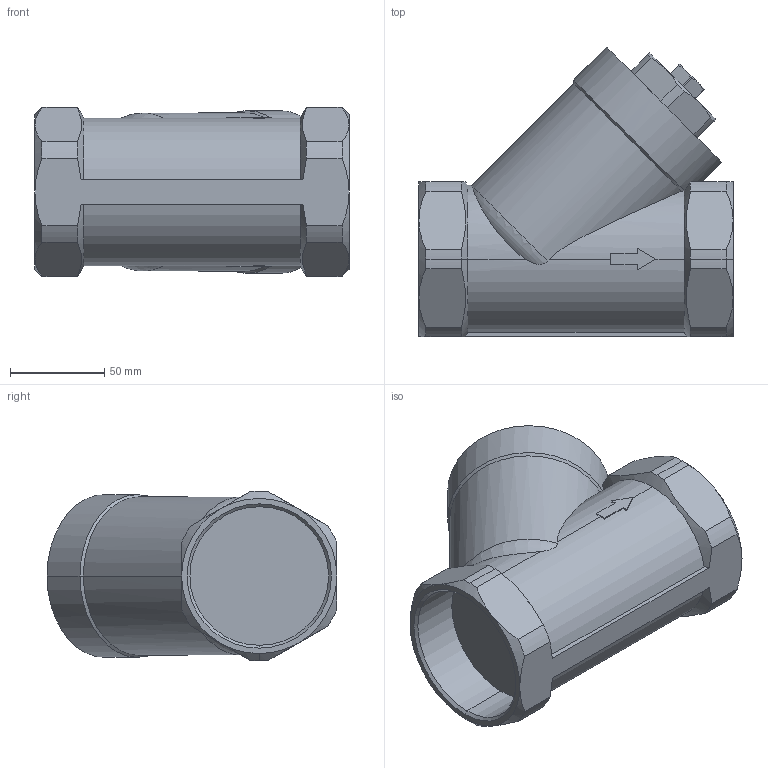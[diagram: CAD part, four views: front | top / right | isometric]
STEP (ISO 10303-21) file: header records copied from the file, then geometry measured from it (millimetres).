
FILE_DESCRIPTION (( 'STEP AP203' ), '1' );
FILE_NAME ('10.000.065.0.STEP', '2018-12-07T13:31:54', ( 'dell2' ), ( 'Microsoft' ), 'SwSTEP 2.0', 'SolidWorks 2017', '' );
FILE_SCHEMA (( 'CONFIG_CONTROL_DESIGN' ));
Length unit declared in the file: millimetre
Products named in the file (1): 10.000.065.0
Bounding box: 167 x 153.98 x 90 mm (x, y, z)
Volume: 1058950.8 mm3; surface area: 88081.2 mm2
Topology: 1 solids, 1 shells, 127 faces, 324 edges, 203 vertices
Faces by surface type: plane 48, cylinder 39, cone 38, torus 2
Entity records: 4444 total; most frequent: CARTESIAN_POINT 1380, ORIENTED_EDGE 648, DIRECTION 609, EDGE_CURVE 324, AXIS2_PLACEMENT_3D 244, VERTEX_POINT 203, EDGE_LOOP 131, ADVANCED_FACE 127
